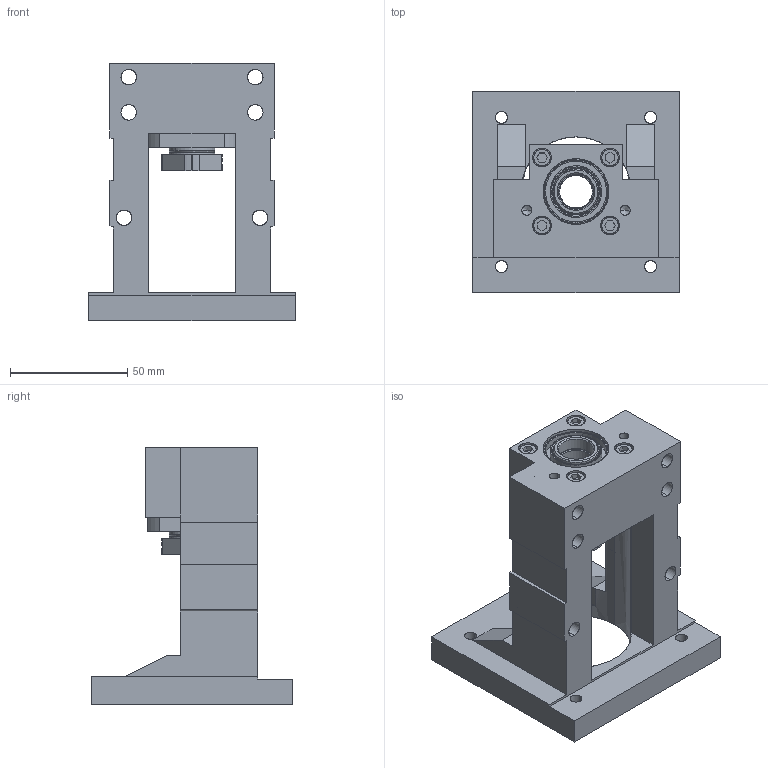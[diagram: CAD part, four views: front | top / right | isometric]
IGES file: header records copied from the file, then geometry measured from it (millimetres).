
Start section: SolidWorks IGES file using analytic representation for surfaces
Global section: file name: C:\Users\117\Desktop\MBCB15M-E.IGS; native system: SolidWorks 2018; preprocessor: SolidWorks 2018; author: 117; date: 230529.134524; units: millimetre
Bounding box: 88 x 86 x 110 mm (x, y, z)
Surface area: 80949.4 mm2 (no closed solid volume)
Topology: 0 solids, 0 shells, 557 faces, 10396 edges, 10304 vertices
Faces by surface type: revolution 312, bspline 245
